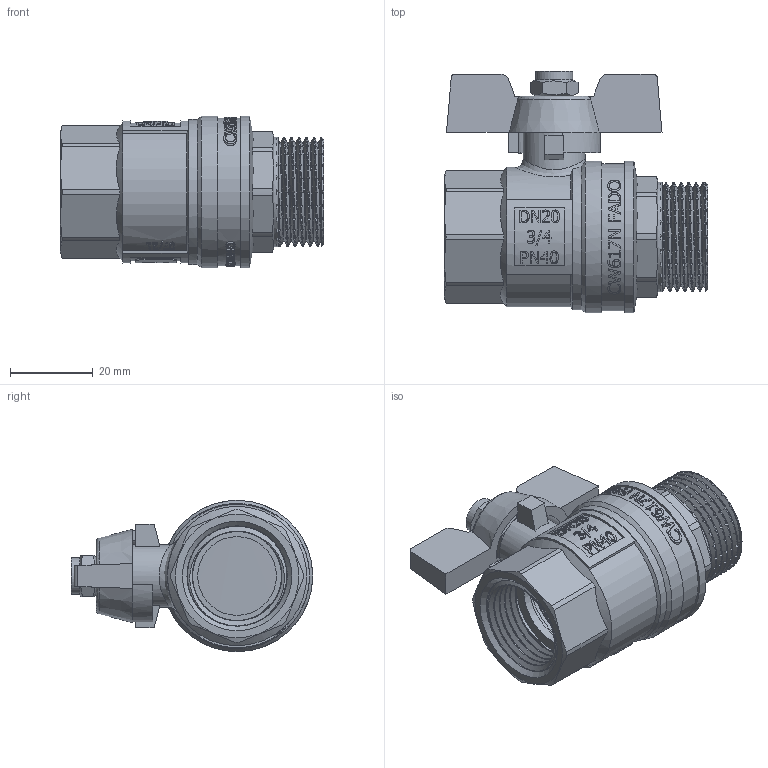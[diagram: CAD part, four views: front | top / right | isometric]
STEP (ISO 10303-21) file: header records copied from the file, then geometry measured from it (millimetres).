
FILE_DESCRIPTION(/* description */ (''),/* implementation_level */ '2;1');
FILE_NAME(/* name */ 'C:\Users\Doom\Desktop\Фадотех\KN12 08.11.2021\KN12 08.11.2021.stp',/* time_stamp */ '2021-12-05T11:58:24+02:00',/* author */ ('Doom'),/* organization */ (''),/* preprocessor_version */ 'ST-DEVELOPER v18',/* originating_system */ 'Autodesk Inventor 2020',/* authorisation */ '');
FILE_SCHEMA (('AUTOMOTIVE_DESIGN { 1 0 10303 214 3 1 1 }'));
Length unit declared in the file: millimetre
Products named in the file (8): KN12 08.11.2021; 20642011; KA2 08.11.2021; 22208286; KA1 08.11.2021; 5010501048005; KA2 08.11.2021_1; DIN 985 - M6
Assembly tree (7 placements, depth 2):
  KN12 08.11.2021
    20642011
    KA2 08.11.2021
    22208286
    KA1 08.11.2021
    5010501048005
    KA2 08.11.2021_1
    DIN 985 - M6
Bounding box: 63.5 x 58.25 x 36.5 mm (x, y, z)
Volume: 34437.3 mm3; surface area: 35072.9 mm2
Topology: 14 solids, 14 shells, 1919 faces, 5436 edges, 3619 vertices
Faces by surface type: plane 846, bspline 681, cylinder 326, cone 58, torus 7, sphere 1
Full cylindrical faces by diameter (mm): 4.917 x1, 8 x1, 8.1 x1, 8.2 x1, 8.9 x1, 8.946 x7, 10 x1, 10.3 x1, 10.8 x2, 11 x1, 12.5 x1, 15 x1, 16 x1, 17.5 x1, 19 x3, 21 x1, 21.48 x6, 23.71 x2, 24.17 x2, 26 x2, 26.4 x1, 28.276 x5, 30.5 x2, 30.517 x2, 32 x7, 32.5 x1, 35.5 x1, 36.5 x2
Entity records: 108552 total; most frequent: CARTESIAN_POINT 65422, ORIENTED_EDGE 10848, DIRECTION 5894, EDGE_CURVE 5424, VERTEX_POINT 3614, B_SPLINE_CURVE_WITH_KNOTS 2699, AXIS2_PLACEMENT_3D 2050, EDGE_LOOP 2022
